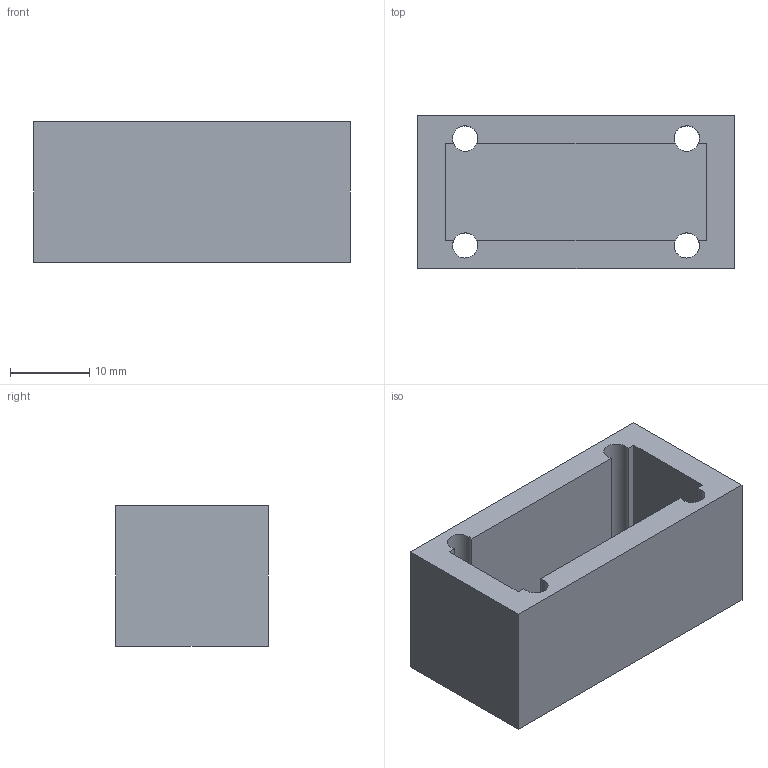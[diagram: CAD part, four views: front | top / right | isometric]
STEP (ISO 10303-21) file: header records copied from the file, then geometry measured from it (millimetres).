
FILE_DESCRIPTION(('Mechanical CAD reference from nasji.com'),'2;1');
FILE_NAME('NASJI.step','',(''),(''),'','NASJI distribution','');
FILE_SCHEMA(('AUTOMOTIVE_DESIGN { 1 0 10303 214 1 1 1 1 }'));
Length unit declared in the file: millimetre
Products named in the file (1): Open CASCADE STEP translator 7.8 80
Bounding box: 40 x 19.3 x 17.8 mm (x, y, z)
Volume: 7486.6 mm3; surface area: 5216.1 mm2
Topology: 1 solids, 1 shells, 19 faces, 60 edges, 40 vertices
Faces by surface type: plane 15, cylinder 4
Full cylindrical faces by diameter (mm): 3.2 x4
Entity records: 1484 total; most frequent: CARTESIAN_POINT 376, DIRECTION 180, ORIENTED_EDGE 120, PCURVE 120, DEFINITIONAL_REPRESENTATION 120, LINE 108, VECTOR 108, EDGE_CURVE 60
